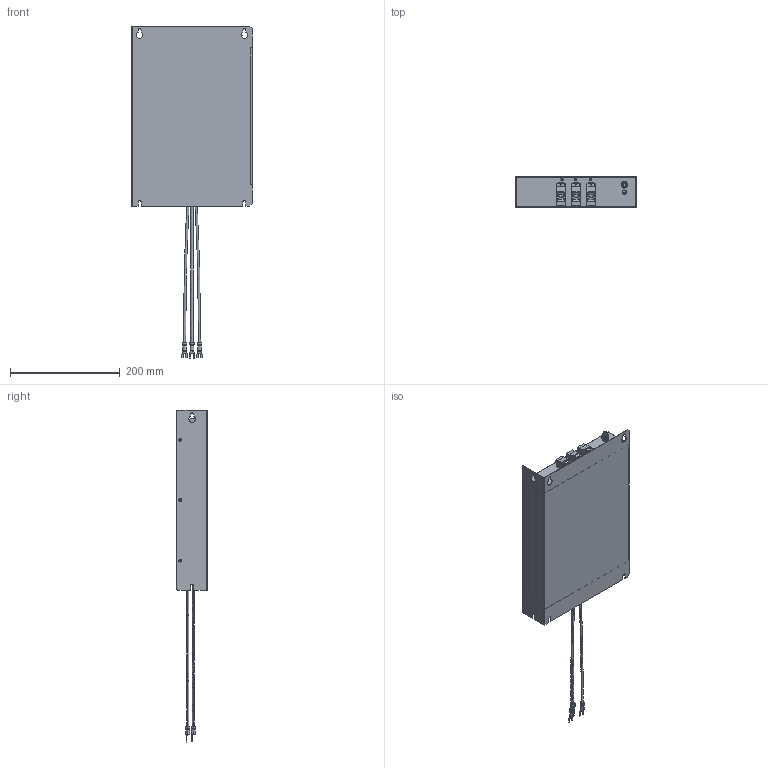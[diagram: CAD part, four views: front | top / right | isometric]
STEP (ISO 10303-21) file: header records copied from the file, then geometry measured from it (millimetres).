
FILE_DESCRIPTION (( 'STEP AP214' ), '1' );
FILE_NAME ('EFR-EFF-3H-54A.STEP', '2026-03-25T08:55:59', ( '' ), ( '' ), 'SwSTEP 2.0', 'SolidWorks 2025', '' );
FILE_SCHEMA (( 'AUTOMOTIVE_DESIGN' ));
Length unit declared in the file: millimetre
Products named in the file (15): IFI 505 - 42, FHSBMBR_1; BUSHING 25; 1_1; 1000-511; 3H R2.0 050326(2); 1000-511 NEW.Harness1; ISO 4035 - M6; BS 4464 - M6 Form B; #10 Terminal Spade 12 - 10 AWG; ISO 7091 - ST 6 - 100 HV; EFR-EFF-3H-54A; AS 1427 - M6 x 20; 1000-511 NEW.Harness1_1; MPT2515; 1000-511L
Assembly tree (28 placements, depth 4):
  EFR-EFF-3H-54A
    3H R2.0 050326(2)
      1000-511 NEW.Harness1
        1000-511 NEW.Harness1_1
      1000-511
      1000-511L
      MPT2515  x3
      1_1  x4
      BUSHING 25
      #10 Terminal Spade 12 - 10 AWG  x3
      AS 1427 - M6 x 20
      ISO 4035 - M6  x2
      ISO 7091 - ST 6 - 100 HV  x2
      BS 4464 - M6 Form B
      IFI 505 - 42, FHSBMBR_1  x6
Bounding box: 220.42 x 56.46 x 604.11 mm (x, y, z)
Volume: 227584.1 mm3; surface area: 415482.1 mm2
Topology: 25 solids, 56 shells, 2051 faces, 5266 edges, 3401 vertices
Faces by surface type: plane 1435, cylinder 385, cone 120, bspline 73, torus 26, sphere 12
Full cylindrical faces by diameter (mm): 6 x4
Entity records: 26039 total; most frequent: CARTESIAN_POINT 5691, ORIENTED_EDGE 4174, DIRECTION 3989, EDGE_CURVE 2093, VECTOR 1441, LINE 1441, VERTEX_POINT 1348, AXIS2_PLACEMENT_3D 1274
